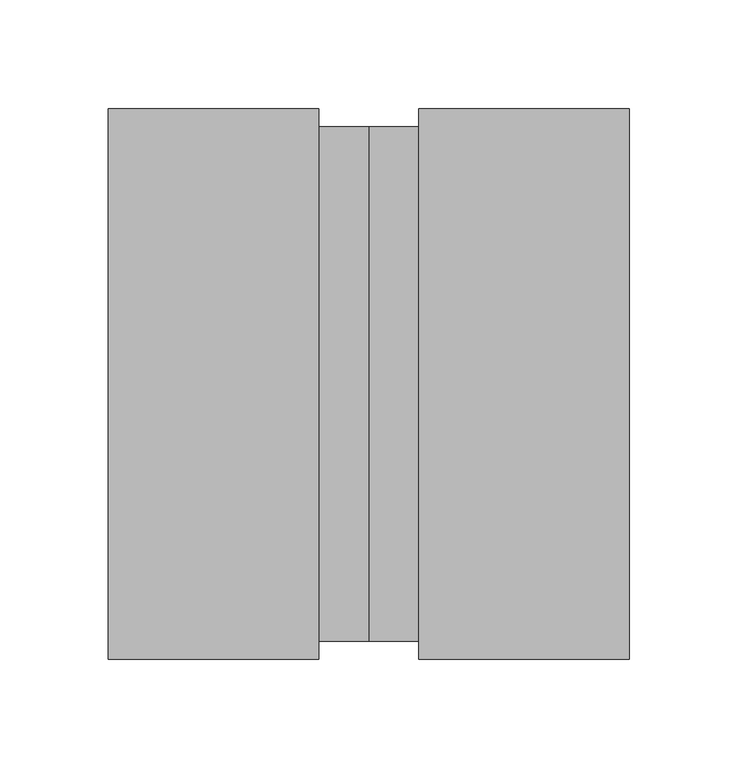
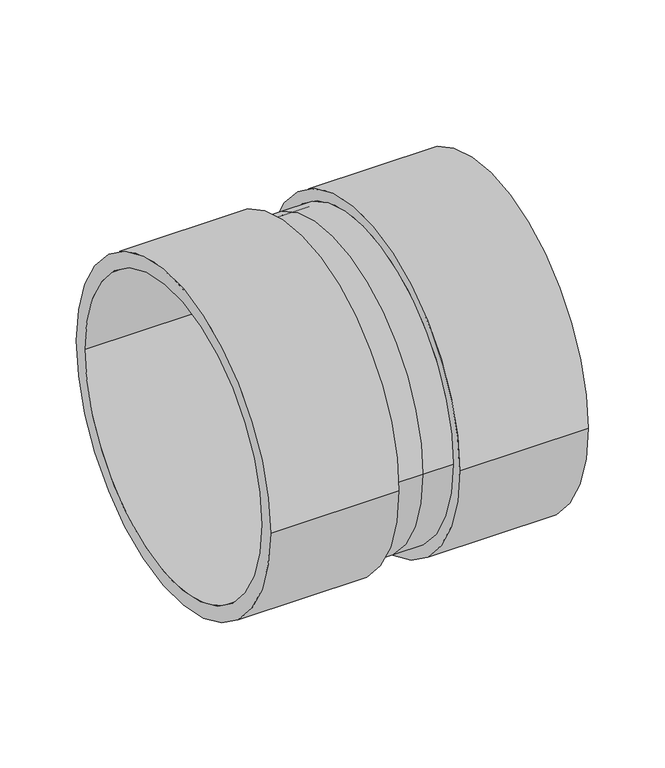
"""IFC4 building model written with IfcOpenShell, lengths in millimetres: pipe fitting geometry, Pipelife - Pragma +ID - Nasuwka reparacyjna : Pipelife - Pragma +ID - Nasuwka reparacyjna."""

from ifc_helpers import new_model, si_unit, frame, origin, place, context, project, spatial, polyline, circle_curve, source, transform, mapped, element, save
from ifc_brep_helpers import plane_surface, cylinder_surface, revolved_surface, advanced_brep


def pipe_fitting_59f1cc2e(model_context):
    return source(origin(), model_context, "Body", "AdvancedBrep", [
        advanced_brep(
        [(-120.0, -127.0, 0.0), (-120.0, 127.0, 0.0), (-120.0, 115.5, 0.0), (-120.0, -115.5, 0.0), (-23.0, -127.0, 0.0), (-23.0, 127.0, 0.0), (-23.0, -118.5, 0.0), (-23.0, 118.5, 0.0), (0.0, 115.5, 0.0), (0.0, -115.5, 0.0), (0.0, -118.5, 0.0), (0.0, 118.5, 0.0), (120.0, -127.0, 0.0), (120.0, 127.0, 0.0), (120.0, -115.5, 0.0), (120.0, 115.5, 0.0), (23.0, -118.5, 0.0), (23.0, 118.5, 0.0), (23.0, -127.0, 0.0), (23.0, 127.0, 0.0)],
        [
            (0, 1, circle_curve(frame((-120.0, 0.0, 0.0), z_axis=(-1.0, 0.0, 0.0), x_axis=(0.0, 1.0, 0.0)), 127.0)),
            (1, 0, circle_curve(frame((-120.0, 0.0, 0.0), z_axis=(-1.0, 0.0, 0.0), x_axis=(0.0, 1.0, 0.0)), 127.0)),
            (2, 3, circle_curve(frame((-120.0, 0.0, 0.0), z_axis=(1.0, 0.0, 0.0), x_axis=(0.0, 1.0, 0.0)), 115.5)),
            (3, 2, circle_curve(frame((-120.0, 0.0, 0.0), z_axis=(1.0, 0.0, 0.0), x_axis=(0.0, 1.0, 0.0)), 115.5)),
            (4, 5, circle_curve(frame((-23.0, 0.0, 0.0), z_axis=(1.0, 0.0, 0.0), x_axis=(0.0, 1.0, 0.0)), 127.0)),
            (5, 4, circle_curve(frame((-23.0, 0.0, 0.0), z_axis=(1.0, 0.0, 0.0), x_axis=(0.0, 1.0, 0.0)), 127.0)),
            (6, 7, circle_curve(frame((-23.0, 0.0, 0.0), z_axis=(-1.0, 0.0, 0.0), x_axis=(0.0, 1.0, 0.0)), 118.5)),
            (7, 6, circle_curve(frame((-23.0, 0.0, 0.0), z_axis=(-1.0, 0.0, 0.0), x_axis=(0.0, 1.0, 0.0)), 118.5)),
            (0, 4),
            (5, 1),
            (2, 8),
            (8, 9, circle_curve(frame((0.0, 0.0, 0.0), z_axis=(1.0, 0.0, 0.0), x_axis=(0.0, 1.0, 0.0)), 115.5)),
            (9, 3),
            (9, 8, circle_curve(frame((0.0, 0.0, 0.0), z_axis=(1.0, 0.0, 0.0), x_axis=(0.0, 1.0, 0.0)), 115.5)),
            (6, 10),
            (10, 11, circle_curve(frame((0.0, 0.0, 0.0), z_axis=(-1.0, 0.0, 0.0), x_axis=(0.0, 1.0, 0.0)), 118.5)),
            (11, 7),
            (11, 10, circle_curve(frame((0.0, 0.0, 0.0), z_axis=(-1.0, 0.0, 0.0), x_axis=(0.0, 1.0, 0.0)), 118.5)),
            (12, 13, circle_curve(frame((120.0, 0.0, 0.0), z_axis=(1.0, 0.0, 0.0), x_axis=(0.0, 1.0, 0.0)), 127.0)),
            (13, 12, circle_curve(frame((120.0, 0.0, 0.0), z_axis=(1.0, 0.0, 0.0), x_axis=(0.0, 1.0, 0.0)), 127.0)),
            (14, 15, circle_curve(frame((120.0, 0.0, 0.0), z_axis=(-1.0, 0.0, 0.0), x_axis=(0.0, 1.0, 0.0)), 115.5)),
            (15, 14, circle_curve(frame((120.0, 0.0, 0.0), z_axis=(-1.0, 0.0, 0.0), x_axis=(0.0, 1.0, 0.0)), 115.5)),
            (10, 16),
            (16, 17, circle_curve(frame((23.0, 0.0, 0.0), z_axis=(-1.0, 0.0, 0.0), x_axis=(0.0, 1.0, 0.0)), 118.5)),
            (17, 11),
            (17, 16, circle_curve(frame((23.0, 0.0, 0.0), z_axis=(-1.0, 0.0, 0.0), x_axis=(0.0, 1.0, 0.0)), 118.5)),
            (18, 19, circle_curve(frame((23.0, 0.0, 0.0), z_axis=(-1.0, 0.0, 0.0), x_axis=(0.0, 1.0, 0.0)), 127.0)),
            (19, 18, circle_curve(frame((23.0, 0.0, 0.0), z_axis=(-1.0, 0.0, 0.0), x_axis=(0.0, 1.0, 0.0)), 127.0)),
            (18, 12),
            (13, 19),
            (8, 15),
            (14, 9),
        ],
        [
            plane_surface(frame((-120.0, 0.0, 0.0), z_axis=(-1.0, 0.0, 0.0), x_axis=(0.0, 0.0, 1.0))),
            plane_surface(frame((-23.0, 0.0, 0.0), z_axis=(1.0, 0.0, 0.0), x_axis=(0.0, 0.0, 1.0))),
            cylinder_surface(frame((-120.0, 0.0, 0.0), z_axis=(-1.0, 0.0, 0.0), x_axis=(0.0, 1.0, 0.0)), 127.0),
            revolved_surface(polyline([(-120.0, 115.5, 0.0), (0.0, 115.5, 0.0)]), (-120.0, 0.0, 0.0), (-1.0, 0.0, 0.0)),
            cylinder_surface(frame((-120.0, 0.0, 0.0), z_axis=(-1.0, 0.0, 0.0), x_axis=(0.0, 1.0, 0.0)), 118.5),
            plane_surface(frame((120.0, 0.0, 0.0), z_axis=(1.0, 0.0, 0.0), x_axis=(0.0, 0.0, 1.0))),
            cylinder_surface(frame((0.0, 0.0, 0.0), z_axis=(-1.0, 0.0, 0.0), x_axis=(0.0, 1.0, 0.0)), 118.5),
            plane_surface(frame((23.0, 0.0, 0.0), z_axis=(-1.0, 0.0, 0.0), x_axis=(0.0, 0.0, 1.0))),
            cylinder_surface(frame((23.0, 0.0, 0.0), z_axis=(-1.0, 0.0, 0.0), x_axis=(0.0, 1.0, 0.0)), 127.0),
            revolved_surface(polyline([(0.0, 115.5, 0.0), (120.0, 115.5, 0.0)]), (0.0, 0.0, 0.0), (-1.0, 0.0, 0.0)),
        ],
        [
            (0, [[1, 2], [3, 4]]),
            (1, [[5, 6], [7, 8]]),
            (2, [[-1, 9, -6, 10]]),
            (2, [[-2, -10, -5, -9]]),
            (3, [[11, 12, 13, -3]]),
            (3, [[-11, -4, -13, 14]]),
            (4, [[15, 16, 17, -7]]),
            (4, [[-15, -8, -17, 18]]),
            (5, [[19, 20], [21, 22]]),
            (6, [[23, 24, 25, -16]]),
            (6, [[-23, -18, -25, 26]]),
            (7, [[27, 28], [-24, -26]]),
            (8, [[-27, 29, -20, 30]]),
            (8, [[-28, -30, -19, -29]]),
            (9, [[31, -21, 32, -12]]),
            (9, [[-31, -14, -32, -22]]),
        ],
    ),
    ])


if __name__ == "__main__":
    model = new_model("IFC4")
    model_context = context("Model", 3, world=origin())
    ifc_project = project(units=[si_unit("LENGTHUNIT", "METRE", prefix="MILLI")], contexts=[model_context])
    site = spatial("IfcSite", under=ifc_project)
    building = spatial("IfcBuilding", under=site)
    placement = place(None, origin())
    pipe_fitting_shape = pipe_fitting_59f1cc2e(model_context)
    element("IfcPipeFitting", 1, ObjectType="Pipelife - Pragma +ID - Nasuwka reparacyjna : Pipelife - Pragma +ID - Nasuwka reparacyjna", at=placement, inside=building, context=model_context, shape_type="MappedRepresentation", body=[
        mapped(pipe_fitting_shape, transform((0.0, 0.0, 0.0), x_axis=(1.0, 0.0, 0.0), y_axis=(0.0, 1.0, 0.0), z_axis=(0.0, 0.0, 1.0))),
    ])
    save(model, "model.ifc")
